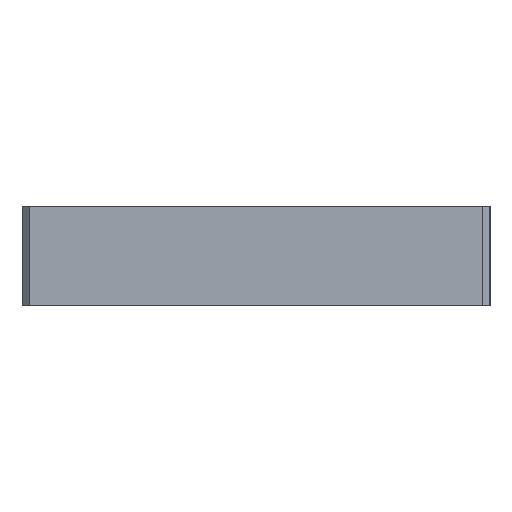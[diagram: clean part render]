
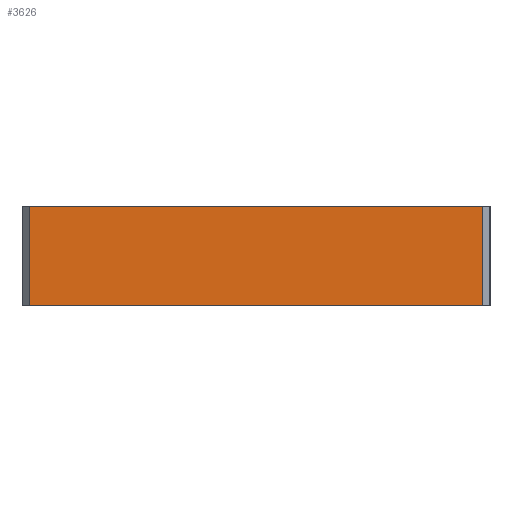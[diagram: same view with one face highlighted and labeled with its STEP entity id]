
A CAD part, left-side view. The second image highlights one B-rep face of the part: STEP entity #3626.
In plain terms, the highlighted planar face has unit normal (-1, 0, 0).
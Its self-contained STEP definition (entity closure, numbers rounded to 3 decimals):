
#372=FACE_OUTER_BOUND('',#578,.T.);
#578=EDGE_LOOP('',(#2417,#2418,#2419,#2420));
#808=LINE('',#4561,#1146);
#811=LINE('',#4567,#1149);
#812=LINE('',#4569,#1150);
#813=LINE('',#4570,#1151);
#1146=VECTOR('',#3980,10.);
#1149=VECTOR('',#3985,10.);
#1150=VECTOR('',#3986,10.);
#1151=VECTOR('',#3987,10.);
#1484=VERTEX_POINT('',#4558);
#1485=VERTEX_POINT('',#4560);
#1487=VERTEX_POINT('',#4566);
#1488=VERTEX_POINT('',#4568);
#1856=EDGE_CURVE('',#1484,#1485,#808,.T.);
#1859=EDGE_CURVE('',#1484,#1487,#811,.T.);
#1860=EDGE_CURVE('',#1488,#1487,#812,.T.);
#1861=EDGE_CURVE('',#1488,#1485,#813,.T.);
#2417=ORIENTED_EDGE('',*,*,#1856,.F.);
#2418=ORIENTED_EDGE('',*,*,#1859,.T.);
#2419=ORIENTED_EDGE('',*,*,#1860,.F.);
#2420=ORIENTED_EDGE('',*,*,#1861,.T.);
#3530=PLANE('',#3856);
#3626=ADVANCED_FACE('',(#372),#3530,.T.);
#3856=AXIS2_PLACEMENT_3D('',#4565,#3983,#3984);
#3980=DIRECTION('',(0.,0.,-1.));
#3983=DIRECTION('center_axis',(-1.,0.,0.));
#3984=DIRECTION('ref_axis',(0.,0.,1.));
#3985=DIRECTION('',(0.,1.,0.));
#3986=DIRECTION('',(0.,0.,1.));
#3987=DIRECTION('',(0.,-1.,0.));
#4558=CARTESIAN_POINT('',(-41.482,-21.694,7.));
#4560=CARTESIAN_POINT('',(-41.482,-21.694,0.));
#4561=CARTESIAN_POINT('',(-41.482,-21.694,0.));
#4565=CARTESIAN_POINT('Origin',(-41.482,-22.194,0.));
#4566=CARTESIAN_POINT('',(-41.482,10.306,7.));
#4567=CARTESIAN_POINT('',(-41.482,10.806,7.));
#4568=CARTESIAN_POINT('',(-41.482,10.306,0.));
#4569=CARTESIAN_POINT('',(-41.482,10.306,0.));
#4570=CARTESIAN_POINT('',(-41.482,10.806,0.));
